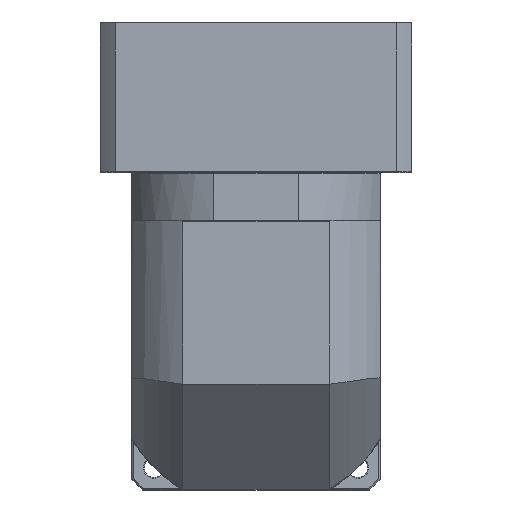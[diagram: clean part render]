
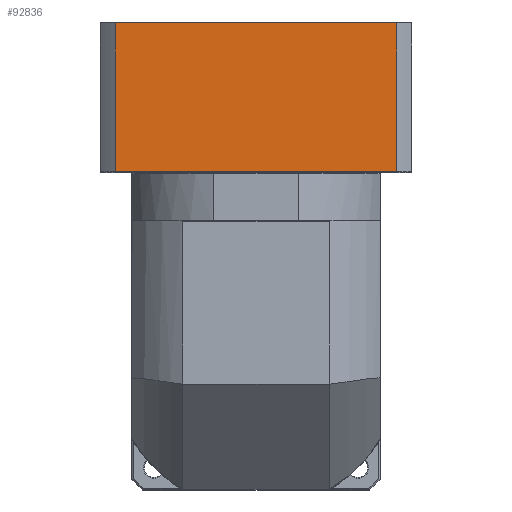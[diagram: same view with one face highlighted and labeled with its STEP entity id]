
A CAD part, top view. The second image highlights one B-rep face of the part: STEP entity #92836.
In plain terms, the highlighted planar face has unit normal (0, 0, 1).
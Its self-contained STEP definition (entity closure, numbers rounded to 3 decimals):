
#115 = DIRECTION ( 'NONE',  ( 0., 1., 0. ) ) ;
#298 = ORIENTED_EDGE ( 'NONE', *, *, #118664, .F. ) ;
#7538 = ORIENTED_EDGE ( 'NONE', *, *, #95230, .F. ) ;
#8051 = CARTESIAN_POINT ( 'NONE',  ( -184.267, -193.114, 106.252 ) ) ;
#9614 = CARTESIAN_POINT ( 'NONE',  ( -23.283, 150.191, 106.252 ) ) ;
#13751 = VERTEX_POINT ( 'NONE', #46105 ) ;
#21841 = DIRECTION ( 'NONE',  ( 1., 0., 0. ) ) ;
#22568 = LINE ( 'NONE', #8051, #30418 ) ;
#22780 = FACE_OUTER_BOUND ( 'NONE', #42524, .T. ) ;
#25423 = CARTESIAN_POINT ( 'NONE',  ( -184.267, 235.191, 106.252 ) ) ;
#30418 = VECTOR ( 'NONE', #115, 1000. ) ;
#33075 = ORIENTED_EDGE ( 'NONE', *, *, #69868, .F. ) ;
#35032 = CARTESIAN_POINT ( 'NONE',  ( -23.283, -193.114, 106.252 ) ) ;
#37507 = AXIS2_PLACEMENT_3D ( 'NONE', #72851, #63982, #103653 ) ;
#42524 = EDGE_LOOP ( 'NONE', ( #298, #33075, #7538, #78841 ) ) ;
#43010 = LINE ( 'NONE', #104387, #66773 ) ;
#46105 = CARTESIAN_POINT ( 'NONE',  ( -184.267, 150.191, 106.252 ) ) ;
#60471 = VERTEX_POINT ( 'NONE', #9614 ) ;
#63982 = DIRECTION ( 'NONE',  ( 0., 0., -1. ) ) ;
#66773 = VECTOR ( 'NONE', #21841, 1000. ) ;
#69868 = EDGE_CURVE ( 'NONE', #60471, #13751, #97169, .T. ) ;
#71226 = CARTESIAN_POINT ( 'NONE',  ( -14.775, 150.191, 106.252 ) ) ;
#72851 = CARTESIAN_POINT ( 'NONE',  ( -14.775, 235.691, 106.252 ) ) ;
#78841 = ORIENTED_EDGE ( 'NONE', *, *, #102530, .F. ) ;
#83708 = VECTOR ( 'NONE', #95957, 1000. ) ;
#87614 = VERTEX_POINT ( 'NONE', #127675 ) ;
#90047 = LINE ( 'NONE', #35032, #83708 ) ;
#92836 = ADVANCED_FACE ( 'NONE', ( #22780 ), #124380, .F. ) ;
#95230 = EDGE_CURVE ( 'NONE', #87614, #60471, #90047, .T. ) ;
#95656 = VECTOR ( 'NONE', #111345, 1000. ) ;
#95957 = DIRECTION ( 'NONE',  ( 0., -1., 0. ) ) ;
#97169 = LINE ( 'NONE', #71226, #95656 ) ;
#102530 = EDGE_CURVE ( 'NONE', #127735, #87614, #43010, .T. ) ;
#103653 = DIRECTION ( 'NONE',  ( 0., -1., 0. ) ) ;
#104387 = CARTESIAN_POINT ( 'NONE',  ( -32.775, 235.191, 106.252 ) ) ;
#111345 = DIRECTION ( 'NONE',  ( -1., 0., 0. ) ) ;
#118664 = EDGE_CURVE ( 'NONE', #13751, #127735, #22568, .T. ) ;
#124380 = PLANE ( 'NONE',  #37507 ) ;
#127675 = CARTESIAN_POINT ( 'NONE',  ( -23.283, 235.191, 106.252 ) ) ;
#127735 = VERTEX_POINT ( 'NONE', #25423 ) ;
